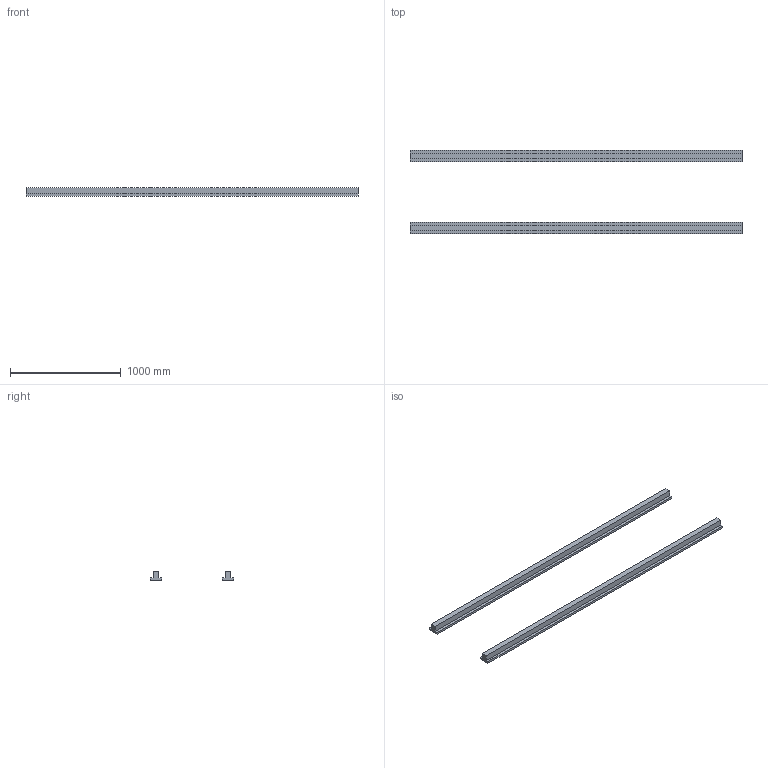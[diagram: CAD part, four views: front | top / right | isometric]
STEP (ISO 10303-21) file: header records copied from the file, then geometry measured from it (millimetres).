
FILE_DESCRIPTION( ( '' ), ' ' );
FILE_NAME( '/vol/tmp/translate-230967859814439321/5a8c13935b07970fe3c95ac8.step', '2018-02-20T12:24:52', ( '' ), ( '' ), ' ', ' ', ' ' );
FILE_SCHEMA( ( 'AUTOMOTIVE_DESIGN { 1 0 10303 214 1 1 1 1 }' ) );
Length unit declared in the file: metre
Products named in the file (2): Part 1; Part 2
Bounding box: 3000 x 750 x 74.35 mm (x, y, z)
Volume: 28305279.2 mm3; surface area: 2111081.4 mm2
Topology: 2 solids, 2 shells, 20 faces, 48 edges, 32 vertices
Faces by surface type: plane 20
Entity records: 758 total; most frequent: CARTESIAN_POINT 102, ORIENTED_EDGE 96, DIRECTION 92, EDGE_CURVE 48, LINE 48, VECTOR 48, VERTEX_POINT 32, AXIS2_PLACEMENT_3D 22
